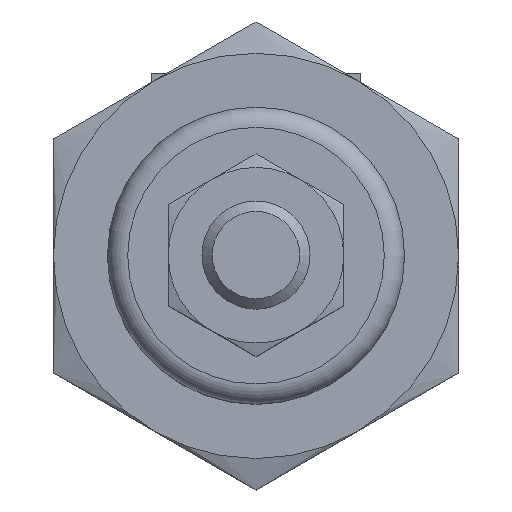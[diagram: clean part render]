
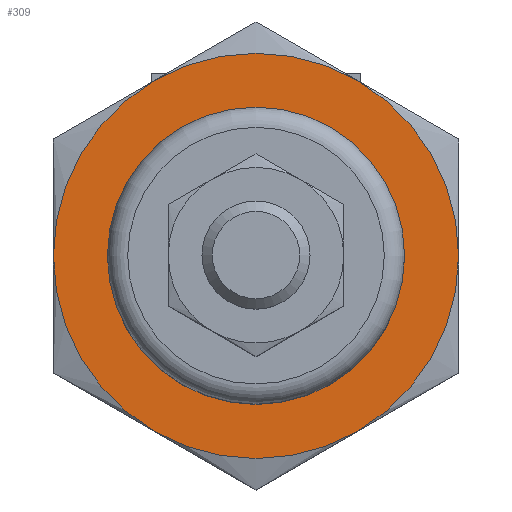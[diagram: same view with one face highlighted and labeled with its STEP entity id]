
A CAD part, top view. The second image highlights one B-rep face of the part: STEP entity #309.
In plain terms, the highlighted planar face has unit normal (0, 0, 1) as drawn and (-1, 0, 0) by its records, which use the part's own axes.
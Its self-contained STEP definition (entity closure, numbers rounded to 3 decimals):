
#309 = ADVANCED_FACE( '', ( #629, #630 ), #631, .F. );
#629 = FACE_OUTER_BOUND( '', #1004, .T. );
#630 = FACE_BOUND( '', #1005, .T. );
#631 = PLANE( '', #1006 );
#1004 = EDGE_LOOP( '', ( #1552, #1553, #1554, #1555, #1556, #1557 ) );
#1005 = EDGE_LOOP( '', ( #1558 ) );
#1006 = AXIS2_PLACEMENT_3D( '', #1559, #1560, #1561 );
#1552 = ORIENTED_EDGE( '', *, *, #2225, .F. );
#1553 = ORIENTED_EDGE( '', *, *, #2226, .F. );
#1554 = ORIENTED_EDGE( '', *, *, #2210, .F. );
#1555 = ORIENTED_EDGE( '', *, *, #2223, .F. );
#1556 = ORIENTED_EDGE( '', *, *, #2227, .F. );
#1557 = ORIENTED_EDGE( '', *, *, #2228, .F. );
#1558 = ORIENTED_EDGE( '', *, *, #2219, .T. );
#1559 = CARTESIAN_POINT( '', ( -3., 0., 0. ) );
#1560 = DIRECTION( '', ( 1., 0., 0. ) );
#1561 = DIRECTION( '', ( 0., 0., -1. ) );
#2210 = EDGE_CURVE( '', #2616, #2617, #2618, .T. );
#2219 = EDGE_CURVE( '', #2632, #2632, #2633, .T. );
#2223 = EDGE_CURVE( '', #2637, #2616, #2639, .T. );
#2225 = EDGE_CURVE( '', #2641, #2642, #2643, .T. );
#2226 = EDGE_CURVE( '', #2617, #2641, #2644, .T. );
#2227 = EDGE_CURVE( '', #2645, #2637, #2646, .T. );
#2228 = EDGE_CURVE( '', #2642, #2645, #2647, .T. );
#2616 = VERTEX_POINT( '', #3253 );
#2617 = VERTEX_POINT( '', #3254 );
#2618 = CIRCLE( '', #3255, 15. );
#2632 = VERTEX_POINT( '', #3289 );
#2633 = CIRCLE( '', #3290, 11. );
#2637 = VERTEX_POINT( '', #3299 );
#2639 = CIRCLE( '', #3306, 15. );
#2641 = VERTEX_POINT( '', #3308 );
#2642 = VERTEX_POINT( '', #3309 );
#2643 = CIRCLE( '', #3310, 15. );
#2644 = CIRCLE( '', #3311, 15. );
#2645 = VERTEX_POINT( '', #3312 );
#2646 = CIRCLE( '', #3313, 15. );
#2647 = CIRCLE( '', #3314, 15. );
#3253 = CARTESIAN_POINT( '', ( -3., -12.99, 7.5 ) );
#3254 = CARTESIAN_POINT( '', ( -3., -12.99, -7.5 ) );
#3255 = AXIS2_PLACEMENT_3D( '', #3803, #3804, #3805 );
#3289 = CARTESIAN_POINT( '', ( -3., 0., -11. ) );
#3290 = AXIS2_PLACEMENT_3D( '', #3812, #3813, #3814 );
#3299 = CARTESIAN_POINT( '', ( -3., 0., 15. ) );
#3306 = AXIS2_PLACEMENT_3D( '', #3815, #3816, #3817 );
#3308 = CARTESIAN_POINT( '', ( -3., 0., -15. ) );
#3309 = CARTESIAN_POINT( '', ( -3., 12.99, -7.5 ) );
#3310 = AXIS2_PLACEMENT_3D( '', #3818, #3819, #3820 );
#3311 = AXIS2_PLACEMENT_3D( '', #3821, #3822, #3823 );
#3312 = CARTESIAN_POINT( '', ( -3., 12.99, 7.5 ) );
#3313 = AXIS2_PLACEMENT_3D( '', #3824, #3825, #3826 );
#3314 = AXIS2_PLACEMENT_3D( '', #3827, #3828, #3829 );
#3803 = CARTESIAN_POINT( '', ( -3., 0., 0. ) );
#3804 = DIRECTION( '', ( 1., 0., 0. ) );
#3805 = DIRECTION( '', ( 0., 0., -1. ) );
#3812 = CARTESIAN_POINT( '', ( -3., 0., 0. ) );
#3813 = DIRECTION( '', ( 1., 0., 0. ) );
#3814 = DIRECTION( '', ( 0., 0., -1. ) );
#3815 = CARTESIAN_POINT( '', ( -3., 0., 0. ) );
#3816 = DIRECTION( '', ( 1., 0., 0. ) );
#3817 = DIRECTION( '', ( 0., 0., -1. ) );
#3818 = CARTESIAN_POINT( '', ( -3., 0., 0. ) );
#3819 = DIRECTION( '', ( 1., 0., 0. ) );
#3820 = DIRECTION( '', ( 0., 0., -1. ) );
#3821 = CARTESIAN_POINT( '', ( -3., 0., 0. ) );
#3822 = DIRECTION( '', ( 1., 0., 0. ) );
#3823 = DIRECTION( '', ( 0., 0., -1. ) );
#3824 = CARTESIAN_POINT( '', ( -3., 0., 0. ) );
#3825 = DIRECTION( '', ( 1., 0., 0. ) );
#3826 = DIRECTION( '', ( 0., 0., -1. ) );
#3827 = CARTESIAN_POINT( '', ( -3., 0., 0. ) );
#3828 = DIRECTION( '', ( 1., 0., 0. ) );
#3829 = DIRECTION( '', ( 0., 0., -1. ) );
